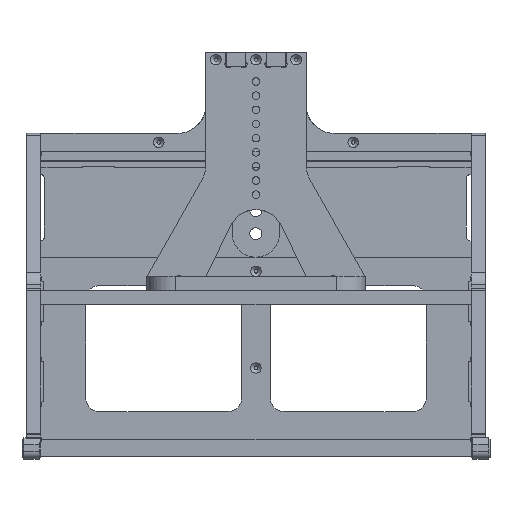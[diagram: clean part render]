
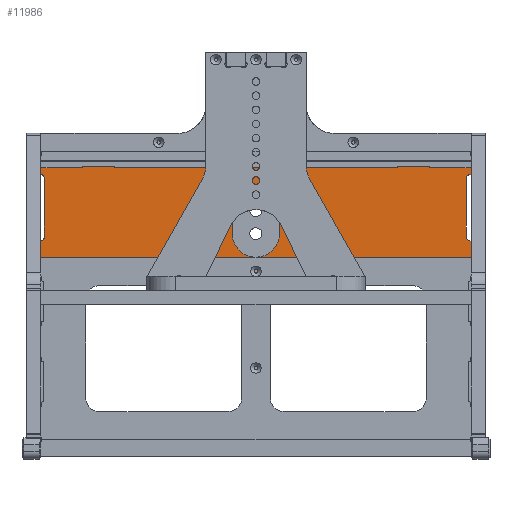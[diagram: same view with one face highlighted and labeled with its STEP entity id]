
A CAD part, top view. The second image highlights one B-rep face of the part: STEP entity #11986.
In plain terms, the highlighted planar face has unit normal (0, 0, 1).
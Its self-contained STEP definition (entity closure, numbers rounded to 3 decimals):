
#266=PLANE('',#12769);
#673=FACE_OUTER_BOUND('',#1354,.T.);
#1354=EDGE_LOOP('',(#8595,#8596,#8597,#8598,#8599,#8600,#8601,#8602,#8603,
#8604,#8605,#8606,#8607,#8608,#8609,#8610,#8611,#8612,#8613,#8614,#8615,
#8616,#8617,#8618,#8619,#8620,#8621,#8622,#8623,#8624));
#2026=LINE('',#17408,#3284);
#2030=LINE('',#17415,#3288);
#2090=LINE('',#17644,#3348);
#2094=LINE('',#17658,#3352);
#2099=LINE('',#17671,#3357);
#2101=LINE('',#17674,#3359);
#2102=LINE('',#17677,#3360);
#2115=LINE('',#17701,#3373);
#2219=LINE('',#18034,#3477);
#2223=LINE('',#18043,#3481);
#2226=LINE('',#18050,#3484);
#2229=LINE('',#18059,#3487);
#2231=LINE('',#18064,#3489);
#2237=LINE('',#18075,#3495);
#2238=LINE('',#18078,#3496);
#2241=LINE('',#18082,#3499);
#2242=LINE('',#18083,#3500);
#2243=LINE('',#18084,#3501);
#2244=LINE('',#18085,#3502);
#3284=VECTOR('',#13765,10.);
#3288=VECTOR('',#13771,10.);
#3348=VECTOR('',#13947,10.);
#3352=VECTOR('',#13959,10.);
#3357=VECTOR('',#13972,10.);
#3359=VECTOR('',#13976,10.);
#3360=VECTOR('',#13979,10.);
#3373=VECTOR('',#13998,10.);
#3477=VECTOR('',#14340,10.);
#3481=VECTOR('',#14350,10.);
#3484=VECTOR('',#14359,10.);
#3487=VECTOR('',#14368,10.);
#3489=VECTOR('',#14372,10.);
#3495=VECTOR('',#14384,10.);
#3496=VECTOR('',#14387,10.);
#3499=VECTOR('',#14392,10.);
#3500=VECTOR('',#14393,10.);
#3501=VECTOR('',#14394,10.);
#3502=VECTOR('',#14395,10.);
#4540=CIRCLE('',#12561,20.);
#4541=CIRCLE('',#12562,20.);
#4593=CIRCLE('',#12618,3.);
#4595=CIRCLE('',#12621,3.);
#4597=CIRCLE('',#12625,3.);
#4599=CIRCLE('',#12629,3.);
#4647=CIRCLE('',#12708,20.);
#4661=CIRCLE('',#12756,3.);
#4662=CIRCLE('',#12759,3.);
#4663=CIRCLE('',#12762,3.);
#4664=CIRCLE('',#12766,3.);
#5083=VERTEX_POINT('',#17397);
#5084=VERTEX_POINT('',#17399);
#5085=VERTEX_POINT('',#17401);
#5087=VERTEX_POINT('',#17407);
#5089=VERTEX_POINT('',#17413);
#5195=VERTEX_POINT('',#17628);
#5196=VERTEX_POINT('',#17630);
#5199=VERTEX_POINT('',#17637);
#5200=VERTEX_POINT('',#17639);
#5203=VERTEX_POINT('',#17649);
#5204=VERTEX_POINT('',#17651);
#5206=VERTEX_POINT('',#17657);
#5208=VERTEX_POINT('',#17663);
#5210=VERTEX_POINT('',#17669);
#5211=VERTEX_POINT('',#17676);
#5219=VERTEX_POINT('',#17699);
#5328=VERTEX_POINT('',#18032);
#5329=VERTEX_POINT('',#18033);
#5330=VERTEX_POINT('',#18038);
#5331=VERTEX_POINT('',#18042);
#5332=VERTEX_POINT('',#18046);
#5333=VERTEX_POINT('',#18052);
#5334=VERTEX_POINT('',#18053);
#5335=VERTEX_POINT('',#18058);
#5336=VERTEX_POINT('',#18062);
#5337=VERTEX_POINT('',#18063);
#5338=VERTEX_POINT('',#18068);
#5339=VERTEX_POINT('',#18073);
#5340=VERTEX_POINT('',#18077);
#6260=EDGE_CURVE('',#5084,#5083,#4540,.T.);
#6261=EDGE_CURVE('',#5085,#5084,#4541,.T.);
#6264=EDGE_CURVE('',#5087,#5085,#2026,.T.);
#6268=EDGE_CURVE('',#5083,#5089,#2030,.T.);
#6375=EDGE_CURVE('',#5196,#5195,#4593,.T.);
#6379=EDGE_CURVE('',#5200,#5199,#4595,.T.);
#6382=EDGE_CURVE('',#5195,#5200,#2090,.T.);
#6385=EDGE_CURVE('',#5204,#5203,#4597,.T.);
#6388=EDGE_CURVE('',#5204,#5206,#2094,.T.);
#6391=EDGE_CURVE('',#5208,#5206,#4599,.T.);
#6395=EDGE_CURVE('',#5203,#5210,#2099,.T.);
#6397=EDGE_CURVE('',#5199,#5208,#2101,.T.);
#6398=EDGE_CURVE('',#5211,#5196,#2102,.T.);
#6411=EDGE_CURVE('',#5210,#5219,#2115,.T.);
#6531=EDGE_CURVE('',#5089,#5087,#4647,.T.);
#6576=EDGE_CURVE('',#5328,#5329,#2219,.T.);
#6579=EDGE_CURVE('',#5329,#5330,#4661,.T.);
#6581=EDGE_CURVE('',#5330,#5331,#2223,.T.);
#6583=EDGE_CURVE('',#5332,#5328,#4662,.T.);
#6585=EDGE_CURVE('',#5219,#5332,#2226,.T.);
#6586=EDGE_CURVE('',#5333,#5334,#4663,.T.);
#6589=EDGE_CURVE('',#5334,#5335,#2229,.T.);
#6591=EDGE_CURVE('',#5336,#5337,#2231,.T.);
#6594=EDGE_CURVE('',#5337,#5338,#4664,.T.);
#6598=EDGE_CURVE('',#5331,#5339,#2237,.T.);
#6599=EDGE_CURVE('',#5336,#5340,#2238,.T.);
#6602=EDGE_CURVE('',#5084,#5340,#2241,.T.);
#6603=EDGE_CURVE('',#5338,#5333,#2242,.T.);
#6604=EDGE_CURVE('',#5211,#5335,#2243,.T.);
#6605=EDGE_CURVE('',#5339,#5084,#2244,.T.);
#8595=ORIENTED_EDGE('',*,*,#6268,.T.);
#8596=ORIENTED_EDGE('',*,*,#6531,.T.);
#8597=ORIENTED_EDGE('',*,*,#6264,.T.);
#8598=ORIENTED_EDGE('',*,*,#6261,.T.);
#8599=ORIENTED_EDGE('',*,*,#6602,.T.);
#8600=ORIENTED_EDGE('',*,*,#6599,.F.);
#8601=ORIENTED_EDGE('',*,*,#6591,.T.);
#8602=ORIENTED_EDGE('',*,*,#6594,.T.);
#8603=ORIENTED_EDGE('',*,*,#6603,.T.);
#8604=ORIENTED_EDGE('',*,*,#6586,.T.);
#8605=ORIENTED_EDGE('',*,*,#6589,.T.);
#8606=ORIENTED_EDGE('',*,*,#6604,.F.);
#8607=ORIENTED_EDGE('',*,*,#6398,.T.);
#8608=ORIENTED_EDGE('',*,*,#6375,.T.);
#8609=ORIENTED_EDGE('',*,*,#6382,.T.);
#8610=ORIENTED_EDGE('',*,*,#6379,.T.);
#8611=ORIENTED_EDGE('',*,*,#6397,.T.);
#8612=ORIENTED_EDGE('',*,*,#6391,.T.);
#8613=ORIENTED_EDGE('',*,*,#6388,.F.);
#8614=ORIENTED_EDGE('',*,*,#6385,.T.);
#8615=ORIENTED_EDGE('',*,*,#6395,.T.);
#8616=ORIENTED_EDGE('',*,*,#6411,.T.);
#8617=ORIENTED_EDGE('',*,*,#6585,.T.);
#8618=ORIENTED_EDGE('',*,*,#6583,.T.);
#8619=ORIENTED_EDGE('',*,*,#6576,.T.);
#8620=ORIENTED_EDGE('',*,*,#6579,.T.);
#8621=ORIENTED_EDGE('',*,*,#6581,.T.);
#8622=ORIENTED_EDGE('',*,*,#6598,.T.);
#8623=ORIENTED_EDGE('',*,*,#6605,.T.);
#8624=ORIENTED_EDGE('',*,*,#6260,.T.);
#11986=ADVANCED_FACE('',(#673),#266,.T.);
#12561=AXIS2_PLACEMENT_3D('',#17400,#13757,#13758);
#12562=AXIS2_PLACEMENT_3D('',#17402,#13759,#13760);
#12618=AXIS2_PLACEMENT_3D('',#17631,#13933,#13934);
#12621=AXIS2_PLACEMENT_3D('',#17640,#13941,#13942);
#12625=AXIS2_PLACEMENT_3D('',#17652,#13953,#13954);
#12629=AXIS2_PLACEMENT_3D('',#17664,#13965,#13966);
#12708=AXIS2_PLACEMENT_3D('',#17939,#14215,#14216);
#12756=AXIS2_PLACEMENT_3D('',#18039,#14345,#14346);
#12759=AXIS2_PLACEMENT_3D('',#18047,#14354,#14355);
#12762=AXIS2_PLACEMENT_3D('',#18054,#14362,#14363);
#12766=AXIS2_PLACEMENT_3D('',#18069,#14377,#14378);
#12769=AXIS2_PLACEMENT_3D('',#18081,#14390,#14391);
#13757=DIRECTION('center_axis',(0.,0.,-1.));
#13758=DIRECTION('ref_axis',(-1.,0.,0.));
#13759=DIRECTION('center_axis',(0.,0.,-1.));
#13760=DIRECTION('ref_axis',(-1.,0.,0.));
#13765=DIRECTION('',(0.,-1.,0.));
#13771=DIRECTION('',(0.,1.,0.));
#13933=DIRECTION('center_axis',(0.,0.,1.));
#13934=DIRECTION('ref_axis',(0.745,0.667,0.));
#13941=DIRECTION('center_axis',(0.,0.,1.));
#13942=DIRECTION('ref_axis',(0.,1.,0.));
#13947=DIRECTION('',(-1.,0.,0.));
#13953=DIRECTION('center_axis',(0.,0.,1.));
#13954=DIRECTION('ref_axis',(0.,1.,0.));
#13959=DIRECTION('',(1.,0.,0.));
#13965=DIRECTION('center_axis',(0.,0.,1.));
#13966=DIRECTION('ref_axis',(0.745,0.667,0.));
#13972=DIRECTION('',(-1.,0.,0.));
#13976=DIRECTION('',(-1.,0.,0.));
#13979=DIRECTION('',(-1.,0.,0.));
#13998=DIRECTION('',(0.,-1.,0.));
#14215=DIRECTION('center_axis',(0.,0.,-1.));
#14216=DIRECTION('ref_axis',(-1.,0.,0.));
#14340=DIRECTION('',(0.,-1.,0.));
#14345=DIRECTION('center_axis',(0.,0.,-1.));
#14346=DIRECTION('ref_axis',(1.,0.,0.));
#14350=DIRECTION('',(-1.,0.,0.));
#14354=DIRECTION('center_axis',(0.,0.,-1.));
#14355=DIRECTION('ref_axis',(0.,1.,0.));
#14359=DIRECTION('',(1.,0.,0.));
#14362=DIRECTION('center_axis',(0.,0.,-1.));
#14363=DIRECTION('ref_axis',(-1.,0.,0.));
#14368=DIRECTION('',(1.,0.,0.));
#14372=DIRECTION('',(-1.,0.,0.));
#14377=DIRECTION('center_axis',(0.,0.,-1.));
#14378=DIRECTION('ref_axis',(0.,-1.,0.));
#14384=DIRECTION('',(0.,-1.,0.));
#14387=DIRECTION('',(0.,-1.,0.));
#14390=DIRECTION('center_axis',(0.,0.,1.));
#14391=DIRECTION('ref_axis',(-1.,0.,0.));
#14392=DIRECTION('',(1.,0.,0.));
#14393=DIRECTION('',(0.,1.,0.));
#14394=DIRECTION('',(0.,-1.,0.));
#14395=DIRECTION('',(1.,0.,0.));
#17397=CARTESIAN_POINT('',(159.378,170.34,4.));
#17399=CARTESIAN_POINT('',(179.378,150.34,4.));
#17400=CARTESIAN_POINT('Origin',(179.378,170.34,4.));
#17401=CARTESIAN_POINT('',(199.378,170.34,4.));
#17402=CARTESIAN_POINT('Origin',(179.378,170.34,4.));
#17407=CARTESIAN_POINT('',(199.378,190.,4.));
#17408=CARTESIAN_POINT('',(199.378,189.17,4.));
#17413=CARTESIAN_POINT('',(159.378,190.,4.));
#17415=CARTESIAN_POINT('',(159.378,179.34,4.));
#17628=CARTESIAN_POINT('',(325.003,227.34,4.));
#17630=CARTESIAN_POINT('',(327.239,226.34,4.));
#17631=CARTESIAN_POINT('Origin',(325.003,224.34,4.));
#17637=CARTESIAN_POINT('',(298.767,226.34,4.));
#17639=CARTESIAN_POINT('',(301.003,227.34,4.));
#17640=CARTESIAN_POINT('Origin',(301.003,224.34,4.));
#17644=CARTESIAN_POINT('',(325.003,227.34,4.));
#17649=CARTESIAN_POINT('',(31.767,226.34,4.));
#17651=CARTESIAN_POINT('',(34.003,227.34,4.));
#17652=CARTESIAN_POINT('Origin',(34.003,224.34,4.));
#17657=CARTESIAN_POINT('',(58.003,227.34,4.));
#17658=CARTESIAN_POINT('',(34.003,227.34,4.));
#17663=CARTESIAN_POINT('',(60.239,226.34,4.));
#17664=CARTESIAN_POINT('Origin',(58.003,224.34,4.));
#17669=CARTESIAN_POINT('',(-2.997,226.34,4.));
#17671=CARTESIAN_POINT('',(360.003,226.34,4.));
#17674=CARTESIAN_POINT('',(360.003,226.34,4.));
#17676=CARTESIAN_POINT('',(362.003,226.34,4.));
#17677=CARTESIAN_POINT('',(360.003,226.34,4.));
#17699=CARTESIAN_POINT('',(-2.997,220.34,4.));
#17701=CARTESIAN_POINT('',(-2.997,204.34,4.));
#17939=CARTESIAN_POINT('Origin',(179.378,190.,4.));
#18032=CARTESIAN_POINT('',(0.003,217.34,4.));
#18033=CARTESIAN_POINT('',(0.003,167.34,4.));
#18034=CARTESIAN_POINT('',(0.003,177.84,4.));
#18038=CARTESIAN_POINT('',(-2.997,164.34,4.));
#18039=CARTESIAN_POINT('Origin',(-2.997,167.34,4.));
#18042=CARTESIAN_POINT('',(-2.997,164.34,4.));
#18043=CARTESIAN_POINT('',(88.253,164.343,4.));
#18046=CARTESIAN_POINT('',(-2.997,220.34,4.));
#18047=CARTESIAN_POINT('Origin',(-2.997,217.34,4.));
#18050=CARTESIAN_POINT('',(88.254,220.337,4.));
#18052=CARTESIAN_POINT('',(358.003,217.34,4.));
#18053=CARTESIAN_POINT('',(361.003,220.34,4.));
#18054=CARTESIAN_POINT('Origin',(361.003,217.34,4.));
#18058=CARTESIAN_POINT('',(362.003,220.34,4.));
#18059=CARTESIAN_POINT('',(270.753,220.34,4.));
#18062=CARTESIAN_POINT('',(362.003,164.34,4.));
#18063=CARTESIAN_POINT('',(361.003,164.34,4.));
#18064=CARTESIAN_POINT('',(270.253,164.34,4.));
#18068=CARTESIAN_POINT('',(358.003,167.34,4.));
#18069=CARTESIAN_POINT('Origin',(361.003,167.34,4.));
#18073=CARTESIAN_POINT('',(-2.997,150.34,4.));
#18075=CARTESIAN_POINT('',(-2.997,204.34,4.));
#18077=CARTESIAN_POINT('',(362.003,150.34,4.));
#18078=CARTESIAN_POINT('',(362.003,140.24,4.));
#18081=CARTESIAN_POINT('Origin',(179.503,188.34,4.));
#18082=CARTESIAN_POINT('',(-0.997,150.34,4.));
#18083=CARTESIAN_POINT('',(358.003,202.84,4.));
#18084=CARTESIAN_POINT('',(362.003,218.576,4.));
#18085=CARTESIAN_POINT('',(-0.997,150.34,4.));
